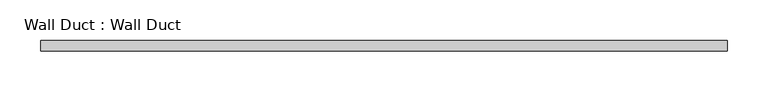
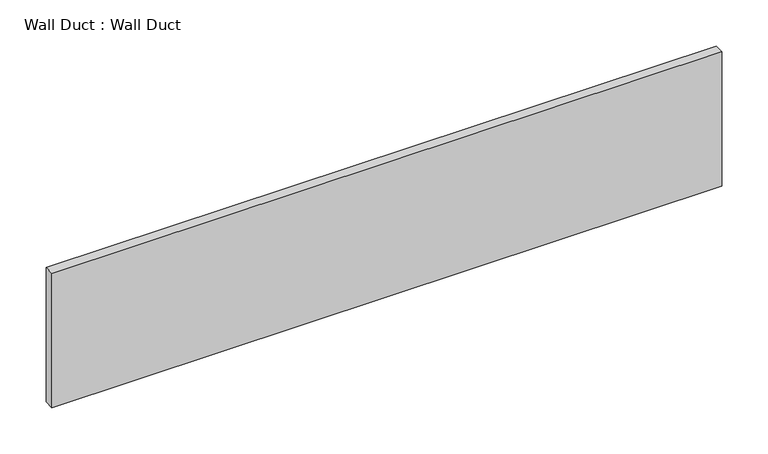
"""IFC4 building model written with IfcOpenShell, lengths in millimetres: proxy geometry, Wall Duct : Wall Duct."""

from ifc_helpers import new_model, si_unit, origin, origin_with_axes, place, context, project, spatial, polyline, outline, extrude, source, transform, mapped, element, save


def wall_duct_wall_duct_054670dc(model_context):
    return source(origin(), model_context, "Body", "SweptSolid", [
        extrude(outline(polyline([(419.1, 0.0), (419.1, -12.7), (-419.1, -12.7), (-419.1, 0.0), (419.1, 0.0)])), origin_with_axes(), (0.0, 0.0, 1.0), 177.8),
    ])


if __name__ == "__main__":
    model = new_model("IFC4")
    model_context = context("Model", 3, world=origin())
    ifc_project = project(units=[si_unit("LENGTHUNIT", "METRE", prefix="MILLI")], contexts=[model_context])
    site = spatial("IfcSite", under=ifc_project)
    building = spatial("IfcBuilding", under=site)
    placement = place(None, origin())
    wall_duct_wall_duct_shape = wall_duct_wall_duct_054670dc(model_context)
    element("IfcBuildingElementProxy", 1, Name="Wall Duct : Wall Duct", ObjectType="Wall Duct : Wall Duct", at=placement, inside=building, context=model_context, shape_type="MappedRepresentation", body=[
        mapped(wall_duct_wall_duct_shape, transform((0.0, 0.0, 0.0), x_axis=(1.0, 0.0, 0.0), y_axis=(0.0, 1.0, 0.0), z_axis=(0.0, 0.0, 1.0))),
    ])
    save(model, "model.ifc")
